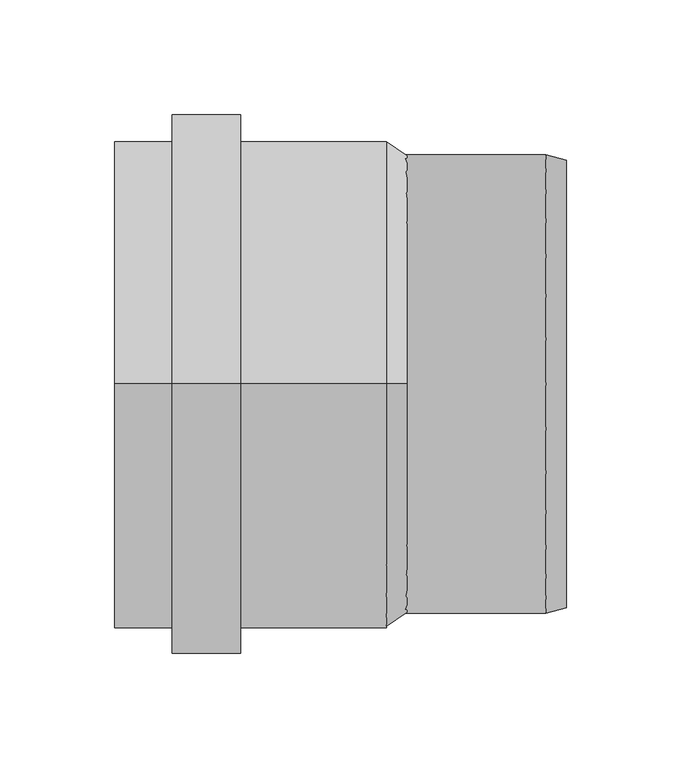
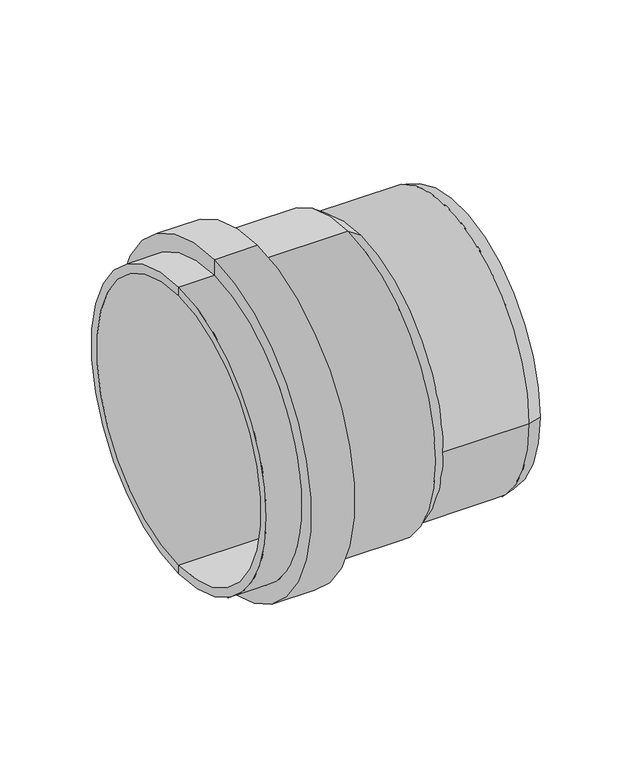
"""IFC4 building model written with IfcOpenShell, lengths in millimetres: pipe fitting geometry, OSMA_KG2000_PPKGBA : Připojení na beton."""

from ifc_helpers import new_model, si_unit, frame, origin, place, context, project, spatial, polyline, circle_curve, source, transform, mapped, element, save
from ifc_brep_helpers import plane_surface, cylinder_surface, revolved_surface, advanced_brep


def pipe_fitting_0b049dfd(model_context):
    return source(origin(), model_context, "Body", "AdvancedBrep", [
        advanced_brep(
        [(-4.5, 0.0, 100.0), (-4.5, 0.0, -100.0), (-123.0, 0.0, -100.0), (-123.0, 0.0, 100.0), (-68.0, 0.0, 106.2), (-68.0, 0.0, -106.2), (-4.5, 0.0, -106.2), (-4.5, 0.0, 106.2), (-68.0, 0.0, 118.0), (-68.0, 0.0, -118.0), (-98.0, 0.0, 118.0), (-98.0, 0.0, -118.0), (-98.0, 0.0, 106.2), (-98.0, 0.0, -106.2), (-123.0, 0.0, 106.2), (-123.0, 0.0, -106.2), (4.5, 0.0, 93.8), (4.5, 0.0, -93.8), (4.5, 0.0, 100.0), (4.5, 0.0, -100.0)],
        [
            (0, 1, circle_curve(frame((-4.5, 0.0, 0.0), z_axis=(1.0, 0.0, 0.0), x_axis=(0.0, 0.0, -1.0)), 100.0)),
            (1, 2),
            (2, 3, circle_curve(frame((-123.0, 0.0, 0.0), z_axis=(-1.0, 0.0, 0.0), x_axis=(0.0, 0.0, -1.0)), 100.0)),
            (3, 0),
            (1, 0, circle_curve(frame((-4.5, 0.0, 0.0), z_axis=(1.0, 0.0, 0.0), x_axis=(0.0, 0.0, -1.0)), 100.0)),
            (3, 2, circle_curve(frame((-123.0, 0.0, 0.0), z_axis=(-1.0, 0.0, 0.0), x_axis=(0.0, 0.0, -1.0)), 100.0)),
            (4, 5, circle_curve(frame((-68.0, 0.0, 0.0), z_axis=(1.0, 0.0, 0.0), x_axis=(0.0, 0.0, -1.0)), 106.2)),
            (5, 6),
            (6, 7, circle_curve(frame((-4.5, 0.0, 0.0), z_axis=(-1.0, 0.0, 0.0), x_axis=(0.0, 0.0, -1.0)), 106.2)),
            (7, 4),
            (5, 4, circle_curve(frame((-68.0, 0.0, 0.0), z_axis=(1.0, 0.0, 0.0), x_axis=(0.0, 0.0, -1.0)), 106.2)),
            (7, 6, circle_curve(frame((-4.5, 0.0, 0.0), z_axis=(-1.0, 0.0, 0.0), x_axis=(0.0, 0.0, -1.0)), 106.2)),
            (8, 9, circle_curve(frame((-68.0, 0.0, 0.0), z_axis=(1.0, 0.0, 0.0), x_axis=(0.0, 0.0, -1.0)), 118.0)),
            (9, 5),
            (4, 8),
            (9, 8, circle_curve(frame((-68.0, 0.0, 0.0), z_axis=(1.0, 0.0, 0.0), x_axis=(0.0, 0.0, -1.0)), 118.0)),
            (10, 11, circle_curve(frame((-98.0, 0.0, 0.0), z_axis=(1.0, 0.0, 0.0), x_axis=(0.0, 0.0, -1.0)), 118.0)),
            (11, 9),
            (8, 10),
            (11, 10, circle_curve(frame((-98.0, 0.0, 0.0), z_axis=(1.0, 0.0, 0.0), x_axis=(0.0, 0.0, -1.0)), 118.0)),
            (12, 13, circle_curve(frame((-98.0, 0.0, 0.0), z_axis=(1.0, 0.0, 0.0), x_axis=(0.0, 0.0, -1.0)), 106.2)),
            (13, 11),
            (10, 12),
            (13, 12, circle_curve(frame((-98.0, 0.0, 0.0), z_axis=(1.0, 0.0, 0.0), x_axis=(0.0, 0.0, -1.0)), 106.2)),
            (14, 15, circle_curve(frame((-123.0, 0.0, 0.0), z_axis=(1.0, 0.0, 0.0), x_axis=(0.0, 0.0, -1.0)), 106.2)),
            (15, 13),
            (12, 14),
            (15, 14, circle_curve(frame((-123.0, 0.0, 0.0), z_axis=(1.0, 0.0, 0.0), x_axis=(0.0, 0.0, -1.0)), 106.2)),
            (2, 15),
            (14, 3),
            (16, 17, circle_curve(frame((4.5, 0.0, 0.0), z_axis=(1.0, 0.0, 0.0), x_axis=(0.0, 0.0, -1.0)), 93.8)),
            (17, 1),
            (0, 16),
            (17, 16, circle_curve(frame((4.5, 0.0, 0.0), z_axis=(1.0, 0.0, 0.0), x_axis=(0.0, 0.0, -1.0)), 93.8)),
            (18, 19, circle_curve(frame((4.5, 0.0, 0.0), z_axis=(1.0, 0.0, 0.0), x_axis=(0.0, 0.0, -1.0)), 100.0)),
            (19, 17),
            (16, 18),
            (19, 18, circle_curve(frame((4.5, 0.0, 0.0), z_axis=(1.0, 0.0, 0.0), x_axis=(0.0, 0.0, -1.0)), 100.0)),
            (6, 19),
            (18, 7),
        ],
        [
            revolved_surface(polyline([(-123.0, 0.0, -100.0), (-4.5, 0.0, -100.0)]), (-2792.4742198, 0.0, 0.0), (-1.0, 0.0, 0.0)),
            cylinder_surface(frame((-2792.4742198, 0.0, 0.0), z_axis=(-1.0, 0.0, 0.0), x_axis=(0.0, 0.0, -1.0)), 106.2),
            plane_surface(frame((-68.0, 0.0, 0.0), z_axis=(1.0, 0.0, 0.0), x_axis=(0.0, 0.0, -1.0))),
            cylinder_surface(frame((-2792.4742198, 0.0, 0.0), z_axis=(-1.0, 0.0, 0.0), x_axis=(0.0, 0.0, -1.0)), 118.0),
            plane_surface(frame((-98.0, 0.0, 0.0), z_axis=(-1.0, 0.0, 0.0), x_axis=(0.0, 0.0, -1.0))),
            plane_surface(frame((-123.0, 0.0, 0.0), z_axis=(-1.0, 0.0, 0.0), x_axis=(0.0, 0.0, -1.0))),
            revolved_surface(polyline([(-4.5, 0.0, -100.0), (4.5, 0.0, -93.8)]), (-2792.4742198, 0.0, 0.0), (-1.0, 0.0, 0.0)),
            plane_surface(frame((4.5, 0.0, 0.0), z_axis=(1.0, 0.0, 0.0), x_axis=(0.0, 0.0, -1.0))),
            revolved_surface(polyline([(4.5, 0.0, -100.0), (-4.5, 0.0, -106.2)]), (-2792.4742198, 0.0, 0.0), (-1.0, 0.0, 0.0)),
        ],
        [
            (0, [[1, 2, 3, 4]]),
            (0, [[5, -4, 6, -2]]),
            (1, [[7, 8, 9, 10]]),
            (1, [[11, -10, 12, -8]]),
            (2, [[13, 14, -7, 15]]),
            (2, [[16, -15, -11, -14]]),
            (3, [[17, 18, -13, 19]]),
            (3, [[20, -19, -16, -18]]),
            (4, [[21, 22, -17, 23]]),
            (4, [[24, -23, -20, -22]]),
            (1, [[25, 26, -21, 27]]),
            (1, [[28, -27, -24, -26]]),
            (5, [[-3, 29, -25, 30]]),
            (5, [[-6, -30, -28, -29]]),
            (6, [[31, 32, -1, 33]]),
            (6, [[34, -33, -5, -32]]),
            (7, [[35, 36, -31, 37]]),
            (7, [[38, -37, -34, -36]]),
            (8, [[-9, 39, -35, 40]]),
            (8, [[-12, -40, -38, -39]]),
        ],
    ),
        advanced_brep(
        [(74.0, -97.5884573, 0.0), (74.0, 97.5884573, 0.0), (74.0, 0.0, 0.0), (65.0, -100.0, 0.0), (65.0, 100.0, 0.0), (0.0, -100.0, 0.0), (0.0, 100.0, 0.0), (0.0, 0.0, 0.0)],
        [
            (0, 1, circle_curve(frame((74.0, 0.0, 0.0), z_axis=(1.0, 0.0, 0.0), x_axis=(0.0, 1.0, 0.0)), 97.5884573)),
            (1, 2),
            (2, 0),
            (1, 0, circle_curve(frame((74.0, 0.0, 0.0), z_axis=(1.0, 0.0, 0.0), x_axis=(0.0, 1.0, 0.0)), 97.5884573)),
            (3, 4, circle_curve(frame((65.0, 0.0, 0.0), z_axis=(1.0, 0.0, 0.0), x_axis=(0.0, 1.0, 0.0)), 100.0)),
            (4, 1),
            (0, 3),
            (4, 3, circle_curve(frame((65.0, 0.0, 0.0), z_axis=(1.0, 0.0, 0.0), x_axis=(0.0, 1.0, 0.0)), 100.0)),
            (5, 6, circle_curve(frame((0.0, 0.0, 0.0), z_axis=(1.0, 0.0, 0.0), x_axis=(0.0, 1.0, 0.0)), 100.0)),
            (6, 4),
            (3, 5),
            (6, 5, circle_curve(frame((0.0, 0.0, 0.0), z_axis=(1.0, 0.0, 0.0), x_axis=(0.0, 1.0, 0.0)), 100.0)),
            (7, 6),
            (5, 7),
        ],
        [
            plane_surface(frame((74.0, 0.0, 0.0), z_axis=(1.0, 0.0, 0.0), x_axis=(0.0, 1.0, 0.0))),
            revolved_surface(polyline([(74.0, 97.5884573, 0.0), (65.0, 100.0, 0.0)]), (2024.0, 0.0, 0.0), (-1.0, 0.0, 0.0)),
            cylinder_surface(frame((2024.0, 0.0, 0.0), z_axis=(-1.0, 0.0, 0.0), x_axis=(0.0, 1.0, 0.0)), 100.0),
            plane_surface(frame((0.0, 0.0, 0.0), z_axis=(-1.0, 0.0, 0.0), x_axis=(0.0, 1.0, 0.0))),
        ],
        [
            (0, [[1, 2, 3]]),
            (0, [[4, -3, -2]]),
            (1, [[5, 6, -1, 7]]),
            (1, [[8, -7, -4, -6]]),
            (2, [[9, 10, -5, 11]]),
            (2, [[12, -11, -8, -10]]),
            (3, [[13, -9, 14]]),
            (3, [[-14, -12, -13]]),
        ],
    ),
    ])


if __name__ == "__main__":
    model = new_model("IFC4")
    model_context = context("Model", 3, world=origin())
    ifc_project = project(units=[si_unit("LENGTHUNIT", "METRE", prefix="MILLI")], contexts=[model_context])
    site = spatial("IfcSite", under=ifc_project)
    building = spatial("IfcBuilding", under=site)
    placement = place(None, origin())
    pipe_fitting_shape = pipe_fitting_0b049dfd(model_context)
    element("IfcPipeFitting", 1, ObjectType="OSMA_KG2000_PPKGBA : Připojení na beton", at=placement, inside=building, context=model_context, shape_type="MappedRepresentation", body=[
        mapped(pipe_fitting_shape, transform((0.0, 0.0, 0.0), x_axis=(1.0, 0.0, 0.0), y_axis=(0.0, 1.0, 0.0), z_axis=(0.0, 0.0, 1.0))),
    ])
    save(model, "model.ifc")
